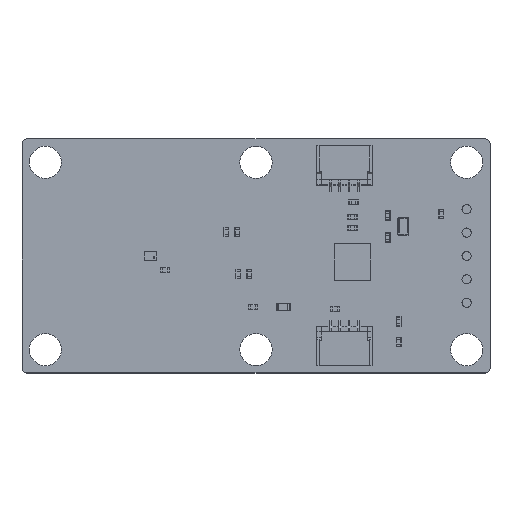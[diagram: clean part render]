
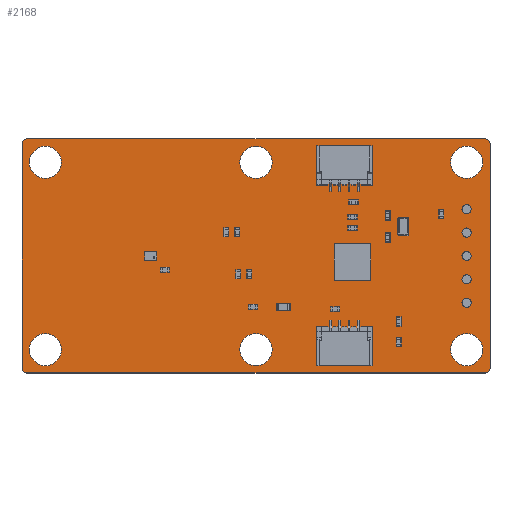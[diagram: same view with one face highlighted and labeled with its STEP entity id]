
A CAD part, top view. The second image highlights one B-rep face of the part: STEP entity #2168.
In plain terms, the highlighted planar face has unit normal (0, 0, 1).
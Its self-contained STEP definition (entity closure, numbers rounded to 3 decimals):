
#2168=ADVANCED_FACE('',(#4934,#4935,#4936,#4937,#4938,#4939,#4940,#4941,#4942,#4943,#4944,#4945),#4946,.T.);
#4934=FACE_BOUND('',#8519,.T.);
#4935=FACE_BOUND('',#8520,.T.);
#4936=FACE_BOUND('',#8521,.T.);
#4937=FACE_BOUND('',#8522,.T.);
#4938=FACE_BOUND('',#8523,.T.);
#4939=FACE_BOUND('',#8524,.T.);
#4940=FACE_BOUND('',#8525,.T.);
#4941=FACE_BOUND('',#8526,.T.);
#4942=FACE_BOUND('',#8527,.T.);
#4943=FACE_BOUND('',#8528,.T.);
#4944=FACE_BOUND('',#8529,.T.);
#4945=FACE_OUTER_BOUND('',#8530,.T.);
#4946=PLANE('',#8531);
#8519=EDGE_LOOP('',(#11790));
#8520=EDGE_LOOP('',(#11791));
#8521=EDGE_LOOP('',(#11792));
#8522=EDGE_LOOP('',(#11793));
#8523=EDGE_LOOP('',(#11794));
#8524=EDGE_LOOP('',(#11795));
#8525=EDGE_LOOP('',(#11796));
#8526=EDGE_LOOP('',(#11797));
#8527=EDGE_LOOP('',(#11798));
#8528=EDGE_LOOP('',(#11799));
#8529=EDGE_LOOP('',(#11800));
#8530=EDGE_LOOP('',(#11801,#11802,#11803,#11804,#11805,#11806,#11807,#11808));
#8531=AXIS2_PLACEMENT_3D('',#11809,#11810,#11811);
#11790=ORIENTED_EDGE('',*,*,#21522,.T.);
#11791=ORIENTED_EDGE('',*,*,#21525,.T.);
#11792=ORIENTED_EDGE('',*,*,#21528,.T.);
#11793=ORIENTED_EDGE('',*,*,#21531,.T.);
#11794=ORIENTED_EDGE('',*,*,#21534,.T.);
#11795=ORIENTED_EDGE('',*,*,#21536,.T.);
#11796=ORIENTED_EDGE('',*,*,#21537,.T.);
#11797=ORIENTED_EDGE('',*,*,#21538,.T.);
#11798=ORIENTED_EDGE('',*,*,#21539,.T.);
#11799=ORIENTED_EDGE('',*,*,#21540,.T.);
#11800=ORIENTED_EDGE('',*,*,#21541,.T.);
#11801=ORIENTED_EDGE('',*,*,#21542,.T.);
#11802=ORIENTED_EDGE('',*,*,#21543,.T.);
#11803=ORIENTED_EDGE('',*,*,#21544,.T.);
#11804=ORIENTED_EDGE('',*,*,#21545,.T.);
#11805=ORIENTED_EDGE('',*,*,#21546,.T.);
#11806=ORIENTED_EDGE('',*,*,#21547,.T.);
#11807=ORIENTED_EDGE('',*,*,#21548,.T.);
#11808=ORIENTED_EDGE('',*,*,#21549,.T.);
#11809=CARTESIAN_POINT('',(22.86,10.16,1.584));
#11810=DIRECTION('',(0.,0.,1.0));
#11811=DIRECTION('',(1.0,0.0,0.));
#21522=EDGE_CURVE('',#25372,#25372,#25373,.T.);
#21525=EDGE_CURVE('',#25377,#25377,#25378,.T.);
#21528=EDGE_CURVE('',#25382,#25382,#25383,.T.);
#21531=EDGE_CURVE('',#25387,#25387,#25388,.T.);
#21534=EDGE_CURVE('',#25392,#25392,#25393,.T.);
#21536=EDGE_CURVE('',#25395,#25395,#25396,.T.);
#21537=EDGE_CURVE('',#25397,#25397,#25398,.T.);
#21538=EDGE_CURVE('',#25399,#25399,#25400,.T.);
#21539=EDGE_CURVE('',#25401,#25401,#25402,.T.);
#21540=EDGE_CURVE('',#25403,#25403,#25404,.T.);
#21541=EDGE_CURVE('',#25405,#25405,#25406,.T.);
#21542=EDGE_CURVE('',#25407,#25408,#25409,.T.);
#21543=EDGE_CURVE('',#25408,#25410,#25411,.T.);
#21544=EDGE_CURVE('',#25410,#25412,#25413,.T.);
#21545=EDGE_CURVE('',#25412,#25414,#25415,.T.);
#21546=EDGE_CURVE('',#25414,#25416,#25417,.T.);
#21547=EDGE_CURVE('',#25416,#25418,#25419,.T.);
#21548=EDGE_CURVE('',#25418,#25420,#25421,.T.);
#21549=EDGE_CURVE('',#25420,#25407,#25422,.T.);
#25372=VERTEX_POINT('',#31043);
#25373=CIRCLE('',#31044,0.5);
#25377=VERTEX_POINT('',#31048);
#25378=CIRCLE('',#31049,0.5);
#25382=VERTEX_POINT('',#31053);
#25383=CIRCLE('',#31054,0.5);
#25387=VERTEX_POINT('',#31058);
#25388=CIRCLE('',#31059,0.5);
#25392=VERTEX_POINT('',#31063);
#25393=CIRCLE('',#31064,0.5);
#25395=VERTEX_POINT('',#31066);
#25396=CIRCLE('',#31067,1.75);
#25397=VERTEX_POINT('',#31068);
#25398=CIRCLE('',#31069,1.75);
#25399=VERTEX_POINT('',#31070);
#25400=CIRCLE('',#31071,1.75);
#25401=VERTEX_POINT('',#31072);
#25402=CIRCLE('',#31073,1.75);
#25403=VERTEX_POINT('',#31074);
#25404=CIRCLE('',#31075,1.75);
#25405=VERTEX_POINT('',#31076);
#25406=CIRCLE('',#31077,1.75);
#25407=VERTEX_POINT('',#31078);
#25408=VERTEX_POINT('',#31079);
#25409=LINE('',#31080,#31081);
#25410=VERTEX_POINT('',#31082);
#25411=CIRCLE('',#31083,0.5);
#25412=VERTEX_POINT('',#31084);
#25413=LINE('',#31085,#31086);
#25414=VERTEX_POINT('',#31087);
#25415=CIRCLE('',#31088,0.5);
#25416=VERTEX_POINT('',#31089);
#25417=LINE('',#31090,#31091);
#25418=VERTEX_POINT('',#31092);
#25419=CIRCLE('',#31093,0.5);
#25420=VERTEX_POINT('',#31094);
#25421=LINE('',#31095,#31096);
#25422=CIRCLE('',#31097,0.5);
#31043=CARTESIAN_POINT('',(45.22,15.24,1.584));
#31044=AXIS2_PLACEMENT_3D('',#39075,#39076,#39077);
#31048=CARTESIAN_POINT('',(45.22,12.7,1.584));
#31049=AXIS2_PLACEMENT_3D('',#39081,#39082,#39083);
#31053=CARTESIAN_POINT('',(45.22,10.16,1.584));
#31054=AXIS2_PLACEMENT_3D('',#39087,#39088,#39089);
#31058=CARTESIAN_POINT('',(45.22,7.62,1.584));
#31059=AXIS2_PLACEMENT_3D('',#39093,#39094,#39095);
#31063=CARTESIAN_POINT('',(45.22,5.08,1.584));
#31064=AXIS2_PLACEMENT_3D('',#39099,#39100,#39101);
#31066=CARTESIAN_POINT('',(43.97,20.32,1.584));
#31067=AXIS2_PLACEMENT_3D('',#39102,#39103,#39104);
#31068=CARTESIAN_POINT('',(43.97,0.,1.584));
#31069=AXIS2_PLACEMENT_3D('',#39105,#39106,#39107);
#31070=CARTESIAN_POINT('',(21.11,20.32,1.584));
#31071=AXIS2_PLACEMENT_3D('',#39108,#39109,#39110);
#31072=CARTESIAN_POINT('',(21.11,0.,1.584));
#31073=AXIS2_PLACEMENT_3D('',#39111,#39112,#39113);
#31074=CARTESIAN_POINT('',(-1.75,0.,1.584));
#31075=AXIS2_PLACEMENT_3D('',#39114,#39115,#39116);
#31076=CARTESIAN_POINT('',(-1.75,20.32,1.584));
#31077=AXIS2_PLACEMENT_3D('',#39117,#39118,#39119);
#31078=CARTESIAN_POINT('',(-2.54,22.36,1.584));
#31079=CARTESIAN_POINT('',(-2.54,-2.04,1.584));
#31080=CARTESIAN_POINT('',(-2.54,10.16,1.584));
#31081=VECTOR('',#39120,1.0);
#31082=CARTESIAN_POINT('',(-2.04,-2.54,1.584));
#31083=AXIS2_PLACEMENT_3D('',#39121,#39122,#39123);
#31084=CARTESIAN_POINT('',(47.76,-2.54,1.584));
#31085=CARTESIAN_POINT('',(22.86,-2.54,1.584));
#31086=VECTOR('',#39124,1.0);
#31087=CARTESIAN_POINT('',(48.26,-2.04,1.584));
#31088=AXIS2_PLACEMENT_3D('',#39125,#39126,#39127);
#31089=CARTESIAN_POINT('',(48.26,22.36,1.584));
#31090=CARTESIAN_POINT('',(48.26,10.16,1.584));
#31091=VECTOR('',#39128,1.0);
#31092=CARTESIAN_POINT('',(47.76,22.86,1.584));
#31093=AXIS2_PLACEMENT_3D('',#39129,#39130,#39131);
#31094=CARTESIAN_POINT('',(-2.04,22.86,1.584));
#31095=CARTESIAN_POINT('',(22.86,22.86,1.584));
#31096=VECTOR('',#39132,1.0);
#31097=AXIS2_PLACEMENT_3D('',#39133,#39134,#39135);
#39075=CARTESIAN_POINT('',(45.72,15.24,1.584));
#39076=DIRECTION('',(0.,0.,-1.0));
#39077=DIRECTION('',(1.0,0.,0.));
#39081=CARTESIAN_POINT('',(45.72,12.7,1.584));
#39082=DIRECTION('',(0.,0.,-1.0));
#39083=DIRECTION('',(1.0,0.,0.));
#39087=CARTESIAN_POINT('',(45.72,10.16,1.584));
#39088=DIRECTION('',(0.,0.,-1.0));
#39089=DIRECTION('',(1.0,0.,0.));
#39093=CARTESIAN_POINT('',(45.72,7.62,1.584));
#39094=DIRECTION('',(0.,0.,-1.0));
#39095=DIRECTION('',(1.0,0.,0.));
#39099=CARTESIAN_POINT('',(45.72,5.08,1.584));
#39100=DIRECTION('',(0.,0.,-1.0));
#39101=DIRECTION('',(1.0,0.,0.));
#39102=CARTESIAN_POINT('',(45.72,20.32,1.584));
#39103=DIRECTION('',(0.,0.,-1.0));
#39104=DIRECTION('',(1.0,0.,0.));
#39105=CARTESIAN_POINT('',(45.72,0.0,1.584));
#39106=DIRECTION('',(0.,0.,-1.0));
#39107=DIRECTION('',(1.0,0.,0.));
#39108=CARTESIAN_POINT('',(22.86,20.32,1.584));
#39109=DIRECTION('',(0.,0.,-1.0));
#39110=DIRECTION('',(1.0,0.,0.));
#39111=CARTESIAN_POINT('',(22.86,0.0,1.584));
#39112=DIRECTION('',(0.,0.,-1.0));
#39113=DIRECTION('',(1.0,0.,0.));
#39114=CARTESIAN_POINT('',(0.0,0.0,1.584));
#39115=DIRECTION('',(0.,0.,-1.0));
#39116=DIRECTION('',(1.0,0.,0.));
#39117=CARTESIAN_POINT('',(0.0,20.32,1.584));
#39118=DIRECTION('',(0.,0.,-1.0));
#39119=DIRECTION('',(1.0,0.,0.));
#39120=DIRECTION('',(0.0,-1.0,0.0));
#39121=CARTESIAN_POINT('',(-2.04,-2.04,1.584));
#39122=DIRECTION('',(0.0,0.0,1.0));
#39123=DIRECTION('',(-1.0,0.,0.0));
#39124=DIRECTION('',(1.0,0.0,0.0));
#39125=CARTESIAN_POINT('',(47.76,-2.04,1.584));
#39126=DIRECTION('',(0.0,0.0,1.0));
#39127=DIRECTION('',(0.0,-1.0,0.0));
#39128=DIRECTION('',(0.0,1.0,0.0));
#39129=CARTESIAN_POINT('',(47.76,22.36,1.584));
#39130=DIRECTION('',(0.0,0.0,1.0));
#39131=DIRECTION('',(1.0,0.0,0.0));
#39132=DIRECTION('',(-1.0,0.0,0.0));
#39133=CARTESIAN_POINT('',(-2.04,22.36,1.584));
#39134=DIRECTION('',(0.0,-0.0,1.0));
#39135=DIRECTION('',(0.,1.0,0.0));
